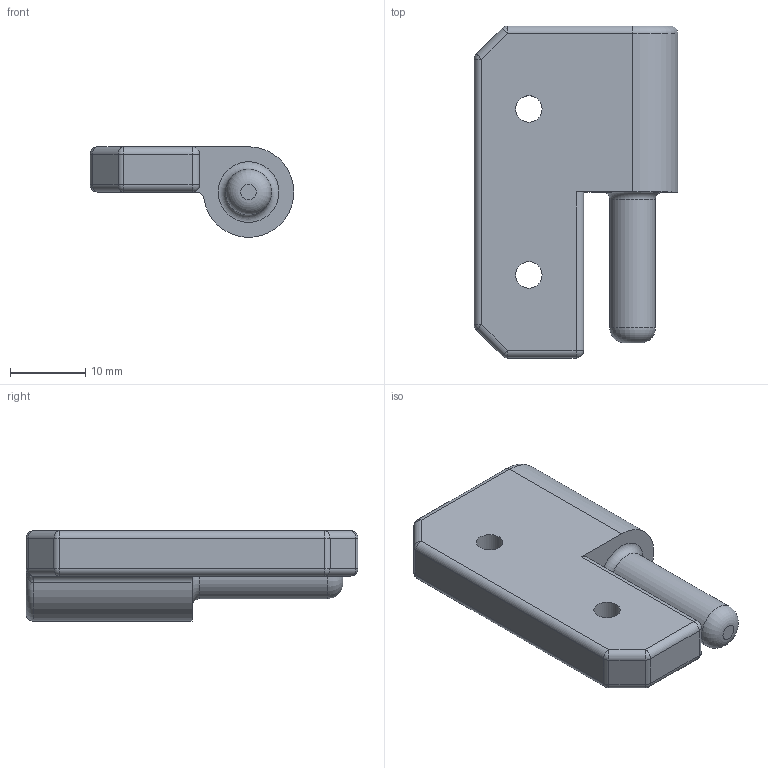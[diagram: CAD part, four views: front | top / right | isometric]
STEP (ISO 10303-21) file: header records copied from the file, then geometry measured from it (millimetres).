
FILE_DESCRIPTION(('STEP AP242'), '1');
FILE_NAME('Òåëî 1', '2025-11-27T11:15:44', ('vladi'), (''), 'C3D Converter', 'C3D Toolkit', '');
FILE_SCHEMA(('AP242_MANAGED_MODEL_BASED_3D_ENGINEERING_MIM_LF { 1 0 10303 442 1 1 4 }'));
Length unit declared in the file: millimetre
Bounding box: 26.99 x 44 x 11.98 mm (x, y, z)
Volume: 6740.9 mm3; surface area: 3151.1 mm2
Topology: 1 solids, 1 shells, 52 faces, 116 edges, 56 vertices
Faces by surface type: cylinder 22, plane 10, torus 9, sphere 8, bspline 3
Full cylindrical faces by diameter (mm): 3.5 x2, 6.05 x1
Entity records: 1477 total; most frequent: CARTESIAN_POINT 378, DIRECTION 244, ORIENTED_EDGE 188, AXIS2_PLACEMENT_3D 102, EDGE_CURVE 94, EDGE_LOOP 68, VERTEX_POINT 56, ADVANCED_FACE 52
